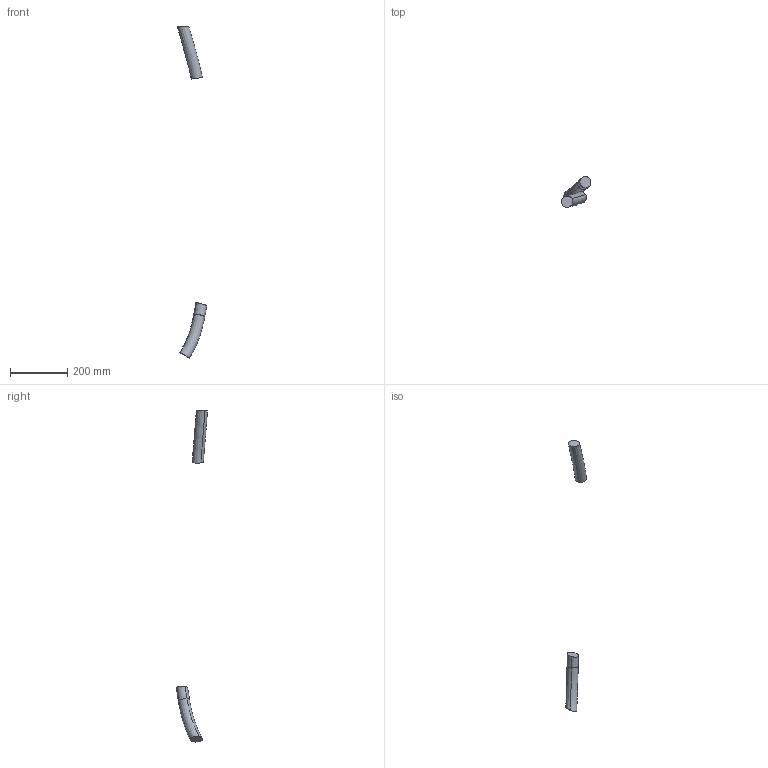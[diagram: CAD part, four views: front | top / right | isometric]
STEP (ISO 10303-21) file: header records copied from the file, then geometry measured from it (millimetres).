
FILE_DESCRIPTION (( 'STEP AP214' ), '1' );
FILE_NAME ('IRB6710-MH3_200kg-295_OC_00_LINK02_CABLE.STEP', '2023-05-10T09:15:21', ( '' ), ( '' ), 'SwSTEP 2.0', 'SolidWorks 2020', '' );
FILE_SCHEMA (( 'AUTOMOTIVE_DESIGN' ));
Length unit declared in the file: millimetre
Products named in the file (1): IRB6710-MH3_200kg-295_OC_00_LINK02_CABLE
Bounding box: 104.27 x 109.25 x 1164.5 mm (x, y, z)
Volume: 478227.9 mm3; surface area: 53396.5 mm2
Topology: 2 solids, 2 shells, 10 faces, 16 edges, 10 vertices
Faces by surface type: bspline 6, plane 4
Entity records: 71429 total; most frequent: CARTESIAN_POINT 71249, ORIENTED_EDGE 32, EDGE_CURVE 16, B_SPLINE_CURVE_WITH_KNOTS 16, VERTEX_POINT 10, ADVANCED_FACE 10, FACE_OUTER_BOUND 10, EDGE_LOOP 10
